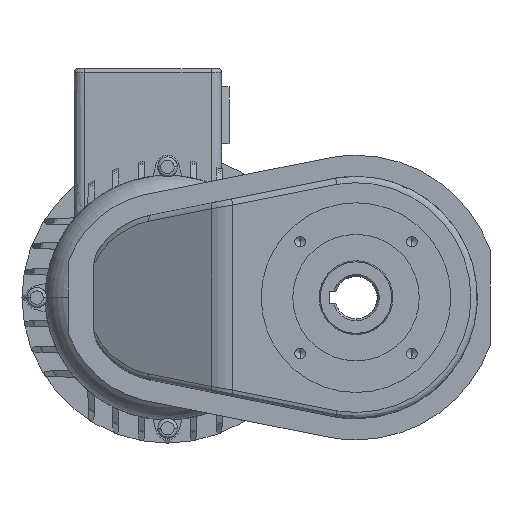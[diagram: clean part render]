
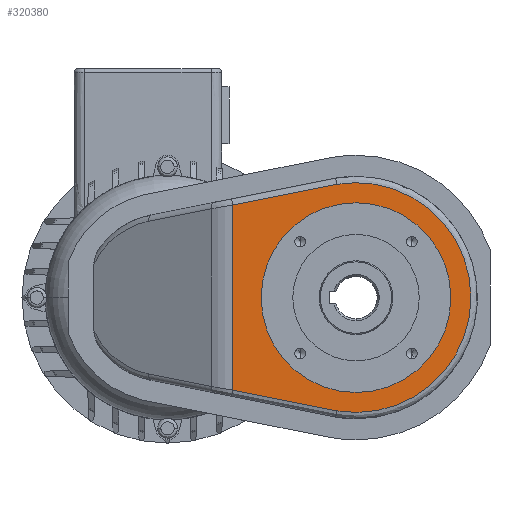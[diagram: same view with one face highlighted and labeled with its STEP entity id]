
A CAD part, left-side view. The second image highlights one B-rep face of the part: STEP entity #320380.
In plain terms, the highlighted planar face has unit normal (-1, 0, 0) as drawn and (0, 0, -1) by its records, which use the part's own axes.
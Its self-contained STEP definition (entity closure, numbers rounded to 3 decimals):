
#319230=CARTESIAN_POINT('',(-1412.334,-381.235,
-97.5));
#319240=VERTEX_POINT('',#319230);
#319320=CARTESIAN_POINT('',(-1502.334,-381.235,-97.5));
#319330=VERTEX_POINT('',#319320);
#319360=CARTESIAN_POINT('',(-1457.334,-381.235,
-97.5));
#319370=DIRECTION('',(0.,0.,-1.));
#319380=DIRECTION('',(1.,0.,0.));
#319390=AXIS2_PLACEMENT_3D('',#319360,#319370,#319380);
#319400=CIRCLE('',#319390,45.);
#319410=EDGE_CURVE('',#319240,#319330,#319400,.T.);
#319460=CARTESIAN_POINT('',(-1411.305,-397.435,
-97.5));
#319470=DIRECTION('',(0.,0.,-1.));
#319480=DIRECTION('',(1.,0.,0.));
#319490=AXIS2_PLACEMENT_3D('',#319460,#319470,#319480);
#319500=PLANE('',#319490);
#319510=CARTESIAN_POINT('',(-1410.954,-439.701,
-97.5));
#319520=DIRECTION('',(1.,0.,0.));
#319530=VECTOR('',#319520,1.);
#319540=LINE('',#319510,#319530);
#319550=CARTESIAN_POINT('',(-1501.234,-439.701,
-97.5));
#319560=VERTEX_POINT('',#319550);
#319570=CARTESIAN_POINT('',(-1413.434,-439.701,
-97.5));
#319580=VERTEX_POINT('',#319570);
#319590=EDGE_CURVE('',#319560,#319580,#319540,.T.);
#319600=ORIENTED_EDGE('',*,*,#319590,.F.);
#319610=CARTESIAN_POINT('',(-1403.598,-390.329,
-97.5));
#319620=CARTESIAN_POINT('',(-1403.623,-390.454,
-97.5));
#319630=CARTESIAN_POINT('',(-1403.647,-390.572,
-97.5));
#319640=CARTESIAN_POINT('',(-1406.899,-406.897,
-97.5));
#319650=CARTESIAN_POINT('',(-1410.125,-423.091,
-97.5));
#319660=CARTESIAN_POINT('',(-1413.379,-439.423,
-97.5));
#319670=CARTESIAN_POINT('',(-1413.407,-439.562,
-97.5));
#319680=CARTESIAN_POINT('',(-1413.434,-439.701,
-97.5));
#319690=B_SPLINE_CURVE_WITH_KNOTS('',3,(#319610,#319620,#319630,#319640,
#319650,#319660,#319670,#319680),.UNSPECIFIED.,.F.,.F.,(4,2,2,4),(0.,
0.401,49.937,50.361),.UNSPECIFIED.);
#319700=CARTESIAN_POINT('',(-1403.598,-390.329,
-97.5));
#319710=VERTEX_POINT('',#319700);
#319720=EDGE_CURVE('',#319710,#319580,#319690,.T.);
#319730=ORIENTED_EDGE('',*,*,#319720,.T.);
#319740=CARTESIAN_POINT('',(-1511.071,-390.329,
-97.5));
#319750=CARTESIAN_POINT('',(-1511.081,-390.268,
-97.5));
#319760=CARTESIAN_POINT('',(-1511.091,-390.209,
-97.5));
#319770=CARTESIAN_POINT('',(-1511.111,-390.088,
-97.5));
#319780=CARTESIAN_POINT('',(-1511.12,-390.027,
-97.5));
#319790=CARTESIAN_POINT('',(-1511.569,-387.264,
-97.5));
#319800=CARTESIAN_POINT('',(-1511.803,-384.532,
-97.5));
#319810=CARTESIAN_POINT('',(-1511.878,-377.291,
-97.5));
#319820=CARTESIAN_POINT('',(-1511.366,-372.801,
-97.5));
#319830=CARTESIAN_POINT('',(-1509.25,-364.05,
-97.5));
#319840=CARTESIAN_POINT('',(-1507.654,-359.823,
-97.5));
#319850=CARTESIAN_POINT('',(-1503.458,-351.857,
-97.5));
#319860=CARTESIAN_POINT('',(-1500.875,-348.149,
-97.5));
#319870=CARTESIAN_POINT('',(-1494.856,-341.453,
-97.5));
#319880=CARTESIAN_POINT('',(-1491.444,-338.491,
-97.5));
#319890=CARTESIAN_POINT('',(-1483.968,-333.474,
-97.5));
#319900=CARTESIAN_POINT('',(-1479.934,-331.438,
-97.5));
#319910=CARTESIAN_POINT('',(-1472.755,-328.869,
-97.5));
#319920=CARTESIAN_POINT('',(-1469.729,-328.071,
-97.5));
#319930=CARTESIAN_POINT('',(-1463.575,-327.004,
-97.5));
#319940=CARTESIAN_POINT('',(-1460.457,-326.735,
-97.5));
#319950=CARTESIAN_POINT('',(-1457.334,-326.735,
-97.5));
#319960=CARTESIAN_POINT('',(-1452.833,-326.735,
-97.5));
#319970=CARTESIAN_POINT('',(-1448.348,-327.293,
-97.5));
#319980=CARTESIAN_POINT('',(-1439.619,-329.498,
-97.5));
#319990=CARTESIAN_POINT('',(-1435.408,-331.138,
-97.5));
#320000=CARTESIAN_POINT('',(-1427.485,-335.414,
-97.5));
#320010=CARTESIAN_POINT('',(-1423.804,-338.035,
-97.5));
#320020=CARTESIAN_POINT('',(-1417.17,-344.122,
-97.5));
#320030=CARTESIAN_POINT('',(-1414.243,-347.565,
-97.5));
#320040=CARTESIAN_POINT('',(-1409.303,-355.092,
-97.5));
#320050=CARTESIAN_POINT('',(-1407.308,-359.146,
-97.5));
#320060=CARTESIAN_POINT('',(-1404.362,-367.654,
-97.5));
#320070=CARTESIAN_POINT('',(-1403.422,-372.074,
-97.5));
#320080=CARTESIAN_POINT('',(-1402.649,-381.044,
-97.5));
#320090=CARTESIAN_POINT('',(-1402.82,-385.56,
-97.5));
#320100=CARTESIAN_POINT('',(-1403.554,-390.06,
-97.5));
#320110=CARTESIAN_POINT('',(-1403.562,-390.115,
-97.5));
#320120=CARTESIAN_POINT('',(-1403.58,-390.222,
-97.5));
#320130=CARTESIAN_POINT('',(-1403.589,-390.275,
-97.5));
#320140=CARTESIAN_POINT('',(-1403.598,-390.329,
-97.5));
#320150=B_SPLINE_CURVE_WITH_KNOTS('',3,(#319740,#319750,#319760,#319770,
#319780,#319790,#319800,#319810,#319820,#319830,#319840,#319850,#319860,
#319870,#319880,#319890,#319900,#319910,#319920,#319930,#319940,#319950,
#319960,#319970,#319980,#319990,#320000,#320010,#320020,#320030,#320040,
#320050,#320060,#320070,#320080,#320090,#320100,#320110,#320120,#320130,
#320140),.UNSPECIFIED.,.F.,.F.,(4,2,2,2,2,2,2,2,2,2,3,2,2,2,2,2,2,2,2,4)
,(0.,0.2,0.401,8.841,22.71
,36.578,50.446,64.314,78.182,
87.804,97.425,111.293,125.161,
139.029,152.898,166.766,180.634,
194.502,194.681,194.861),.UNSPECIFIED.);
#320160=CARTESIAN_POINT('',(-1511.071,-390.329,
-97.5));
#320170=VERTEX_POINT('',#320160);
#320180=EDGE_CURVE('',#320170,#319710,#320150,.T.);
#320190=ORIENTED_EDGE('',*,*,#320180,.T.);
#320200=CARTESIAN_POINT('',(-1501.234,-439.701,
-97.5));
#320210=CARTESIAN_POINT('',(-1501.262,-439.562,
-97.5));
#320220=CARTESIAN_POINT('',(-1501.289,-439.423,
-97.5));
#320230=CARTESIAN_POINT('',(-1504.543,-423.091,
-97.5));
#320240=CARTESIAN_POINT('',(-1507.769,-406.897,
-97.5));
#320250=CARTESIAN_POINT('',(-1511.022,-390.572,
-97.5));
#320260=CARTESIAN_POINT('',(-1511.046,-390.454,
-97.5));
#320270=CARTESIAN_POINT('',(-1511.071,-390.329,
-97.5));
#320280=B_SPLINE_CURVE_WITH_KNOTS('',3,(#320200,#320210,#320220,#320230,
#320240,#320250,#320260,#320270),.UNSPECIFIED.,.F.,.F.,(4,2,2,4),(0.,
0.424,49.96,50.361),.UNSPECIFIED.);
#320290=EDGE_CURVE('',#319560,#320170,#320280,.T.);
#320300=ORIENTED_EDGE('',*,*,#320290,.T.);
#320310=EDGE_LOOP('',(#320300,#320190,#319730,#319600));
#320320=FACE_OUTER_BOUND('',#320310,.T.);
#320330=EDGE_CURVE('',#319330,#319240,#319400,.T.);
#320340=ORIENTED_EDGE('',*,*,#320330,.F.);
#320350=ORIENTED_EDGE('',*,*,#319410,.F.);
#320360=EDGE_LOOP('',(#320350,#320340));
#320370=FACE_BOUND('',#320360,.T.);
#320380=ADVANCED_FACE('',(#320320,#320370),#319500,.T.);
